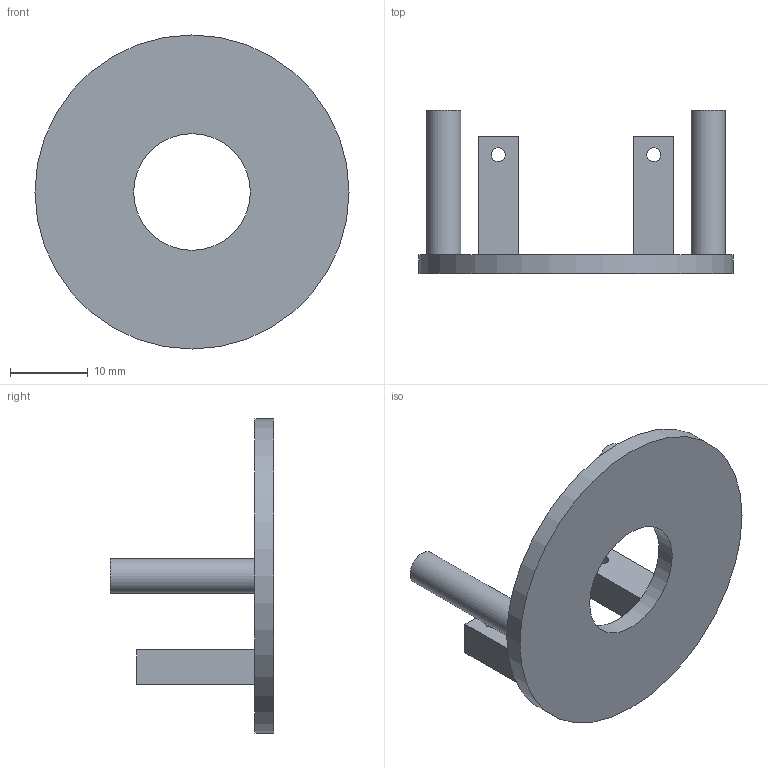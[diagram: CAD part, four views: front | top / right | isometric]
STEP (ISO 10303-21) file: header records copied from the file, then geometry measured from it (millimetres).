
FILE_DESCRIPTION(('Open CASCADE Model'),'2;1');
FILE_NAME('Open CASCADE Shape Model','2026-10-20T15:14:21',('Author'),( 'Open CASCADE'),'Open CASCADE STEP processor 7.8','Open CASCADE 7.8' ,'Unknown');
FILE_SCHEMA(('AUTOMOTIVE_DESIGN { 1 0 10303 214 1 1 1 1 }'));
Length unit declared in the file: millimetre
Products named in the file (1): Open CASCADE STEP translator 7.8 8
Bounding box: 40.4 x 21 x 40.4 mm (x, y, z)
Volume: 3860.7 mm3; surface area: 3874.5 mm2
Topology: 1 solids, 1 shells, 24 faces, 48 edges, 32 vertices
Faces by surface type: plane 16, cylinder 8
Full cylindrical faces by diameter (mm): 1.8 x4, 4.4 x2, 15 x1, 40.4 x1
Entity records: 1270 total; most frequent: CARTESIAN_POINT 241, DIRECTION 190, ORIENTED_EDGE 96, PCURVE 96, DEFINITIONAL_REPRESENTATION 96, LINE 96, VECTOR 96, EDGE_CURVE 48
